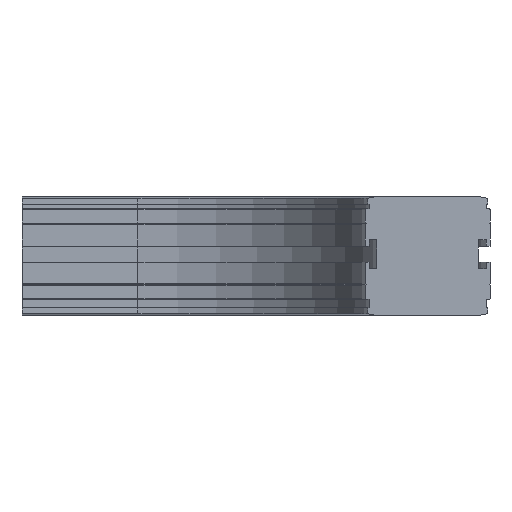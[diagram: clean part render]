
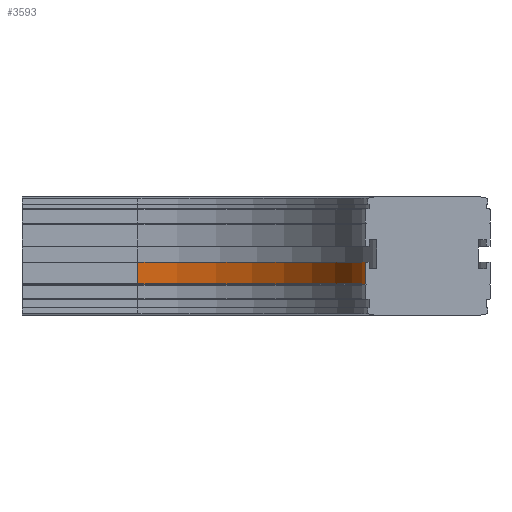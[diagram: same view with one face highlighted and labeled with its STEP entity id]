
A CAD part, front view. The second image highlights one B-rep face of the part: STEP entity #3593.
In plain terms, the highlighted cylindrical face has radius 157 mm (diameter 314 mm), a partial arc.
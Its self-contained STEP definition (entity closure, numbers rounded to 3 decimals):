
#2261=CARTESIAN_POINT('',(237.0,-200.,-60.));
#2262=VERTEX_POINT('',#2261);
#2292=CARTESIAN_POINT('',(237.0,-200.,-45.));
#2293=VERTEX_POINT('',#2292);
#2300=CARTESIAN_POINT('',(237.0,-200.0,-60.));
#2301=DIRECTION('',(0.0,0.0,1.0));
#2302=VECTOR('',#2301,15.0);
#2303=LINE('',#2300,#2302);
#2304=EDGE_CURVE('',#2262,#2293,#2303,.T.);
#3550=CARTESIAN_POINT('',(80.0,-43.0,-60.));
#3551=VERTEX_POINT('',#3550);
#3552=CARTESIAN_POINT('',(80.0,-200.0,-60.));
#3553=DIRECTION('',(0.0,0.0,-1.0));
#3554=DIRECTION('',(-1.0,0.0,0.0));
#3555=AXIS2_PLACEMENT_3D('',#3552,#3553,#3554);
#3556=CIRCLE('',#3555,157.0);
#3557=EDGE_CURVE('',#3551,#2262,#3556,.T.);
#3569=CARTESIAN_POINT('',(80.0,-200.0,-52.5));
#3570=DIRECTION('',(0.0,0.0,-1.0));
#3571=DIRECTION('',(-1.0,0.0,0.0));
#3572=AXIS2_PLACEMENT_3D('',#3569,#3570,#3571);
#3573=CYLINDRICAL_SURFACE('',#3572,157.0);
#3574=ORIENTED_EDGE('',*,*,#2304,.T.);
#3575=CARTESIAN_POINT('',(80.0,-43.0,-45.));
#3576=VERTEX_POINT('',#3575);
#3577=CARTESIAN_POINT('',(80.0,-200.0,-45.));
#3578=DIRECTION('',(0.0,0.0,-1.0));
#3579=DIRECTION('',(-1.0,0.0,0.0));
#3580=AXIS2_PLACEMENT_3D('',#3577,#3578,#3579);
#3581=CIRCLE('',#3580,157.0);
#3582=EDGE_CURVE('',#3576,#2293,#3581,.T.);
#3583=ORIENTED_EDGE('',*,*,#3582,.F.);
#3584=CARTESIAN_POINT('',(80.0,-43.0,-60.));
#3585=DIRECTION('',(0.0,0.0,1.0));
#3586=VECTOR('',#3585,15.0);
#3587=LINE('',#3584,#3586);
#3588=EDGE_CURVE('',#3551,#3576,#3587,.T.);
#3589=ORIENTED_EDGE('',*,*,#3588,.F.);
#3590=ORIENTED_EDGE('',*,*,#3557,.T.);
#3591=EDGE_LOOP('',(#3574,#3583,#3589,#3590));
#3592=FACE_OUTER_BOUND('',#3591,.T.);
#3593=ADVANCED_FACE('',(#3592),#3573,.F.);
